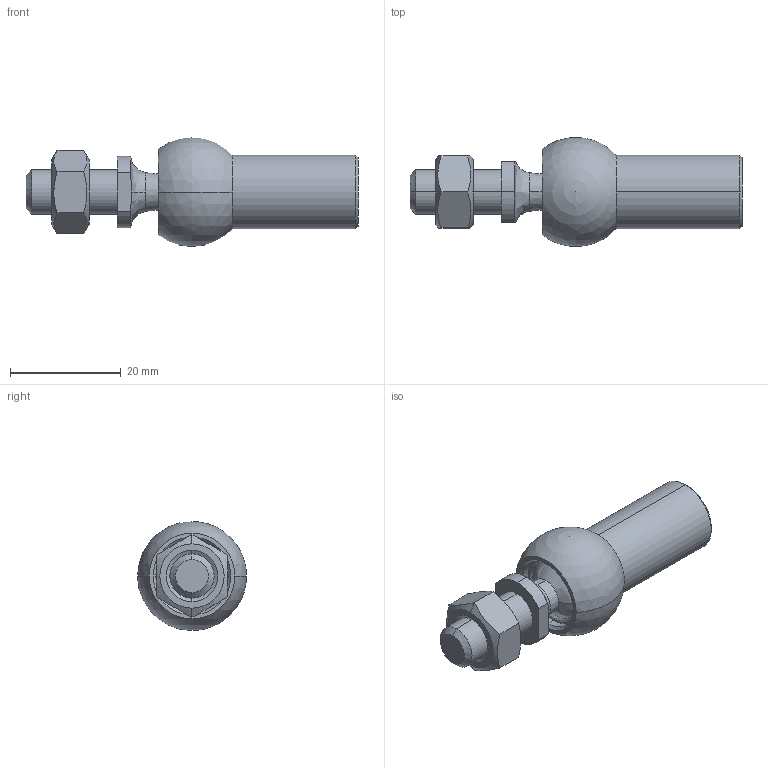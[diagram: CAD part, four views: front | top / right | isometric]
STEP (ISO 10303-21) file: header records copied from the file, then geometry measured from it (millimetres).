
FILE_DESCRIPTION (( 'STEP AP214' ), '1' );
FILE_NAME ('13.AG03.STEP', '2017-11-09T11:05:23', ( '' ), ( '' ), 'SwSTEP 2.0', 'SolidWorks 2016', '' );
FILE_SCHEMA (( 'AUTOMOTIVE_DESIGN' ));
Length unit declared in the file: millimetre
Products named in the file (1): 13.AG03
Bounding box: 59.97 x 19.7 x 19.7 mm (x, y, z)
Volume: 7297.4 mm3; surface area: 4626 mm2
Topology: 1 solids, 1 shells, 77 faces, 204 edges, 129 vertices
Faces by surface type: plane 22, cone 20, cylinder 15, bspline 14, sphere 4, torus 2
Entity records: 3263 total; most frequent: CARTESIAN_POINT 1407, DIRECTION 389, ORIENTED_EDGE 386, EDGE_CURVE 193, AXIS2_PLACEMENT_3D 168, VERTEX_POINT 126, CIRCLE 104, EDGE_LOOP 85
